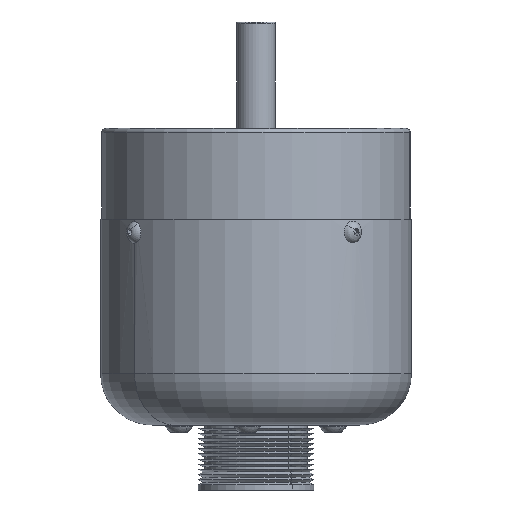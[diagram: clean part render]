
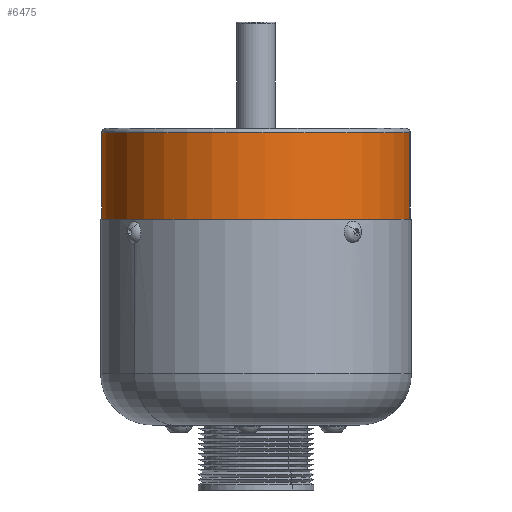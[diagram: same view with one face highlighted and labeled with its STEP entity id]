
A CAD part, front view. The second image highlights one B-rep face of the part: STEP entity #6475.
In plain terms, the highlighted cylindrical face has radius 38.1 mm (diameter 76.2 mm), a partial arc.
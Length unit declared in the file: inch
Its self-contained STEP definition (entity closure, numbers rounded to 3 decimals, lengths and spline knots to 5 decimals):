
#12 = DIRECTION ( 'NONE',  ( 0., 0., 1. ) ) ;
#226 = CIRCLE ( 'NONE', #13781, 1.5 ) ;
#287 = ORIENTED_EDGE ( 'NONE', *, *, #9919, .F. ) ;
#1150 = CYLINDRICAL_SURFACE ( 'NONE', #11495, 1.5 ) ;
#1647 = DIRECTION ( 'NONE',  ( 0.993, -0.115, 0. ) ) ;
#1649 = CARTESIAN_POINT ( 'NONE',  ( 0.74608, 0.28622, -0.38678 ) ) ;
#2266 = EDGE_CURVE ( 'NONE', #6272, #11866, #226, .T. ) ;
#3319 = ORIENTED_EDGE ( 'NONE', *, *, #5310, .T. ) ;
#3476 = DIRECTION ( 'NONE',  ( 0.993, -0.115, 0. ) ) ;
#4111 = CARTESIAN_POINT ( 'NONE',  ( 0.74608, 0.28622, -0.77478 ) ) ;
#4154 = CARTESIAN_POINT ( 'NONE',  ( -2.23389, 0.63233, -0.77478 ) ) ;
#4713 = DIRECTION ( 'NONE',  ( -0.993, 0.115, 0. ) ) ;
#5310 = EDGE_CURVE ( 'NONE', #10317, #6272, #6427, .T. ) ;
#6132 = CARTESIAN_POINT ( 'NONE',  ( -2.23389, 0.63233, -0.38678 ) ) ;
#6272 = VERTEX_POINT ( 'NONE', #7293 ) ;
#6427 = LINE ( 'NONE', #4111, #12635 ) ;
#6475 = ADVANCED_FACE ( 'NONE', ( #14116 ), #1150, .T. ) ;
#6665 = VECTOR ( 'NONE', #7641, 39.37008 ) ;
#7095 = AXIS2_PLACEMENT_3D ( 'NONE', #8203, #13896, #3476 ) ;
#7293 = CARTESIAN_POINT ( 'NONE',  ( 0.74608, 0.28622, 0.45322 ) ) ;
#7641 = DIRECTION ( 'NONE',  ( 0., 0., 1. ) ) ;
#8203 = CARTESIAN_POINT ( 'NONE',  ( -0.7439, 0.45927, -0.38678 ) ) ;
#8743 = LINE ( 'NONE', #4154, #6665 ) ;
#9919 = EDGE_CURVE ( 'NONE', #11838, #11866, #8743, .T. ) ;
#10317 = VERTEX_POINT ( 'NONE', #1649 ) ;
#10337 = ORIENTED_EDGE ( 'NONE', *, *, #2266, .T. ) ;
#10590 = CARTESIAN_POINT ( 'NONE',  ( -0.7439, 0.45927, -0.77478 ) ) ;
#10758 = EDGE_LOOP ( 'NONE', ( #14971, #3319, #10337, #287 ) ) ;
#11158 = DIRECTION ( 'NONE',  ( 0., 0., 1. ) ) ;
#11495 = AXIS2_PLACEMENT_3D ( 'NONE', #10590, #12, #4713 ) ;
#11838 = VERTEX_POINT ( 'NONE', #6132 ) ;
#11866 = VERTEX_POINT ( 'NONE', #13705 ) ;
#12231 = DIRECTION ( 'NONE',  ( 0., 0., -1. ) ) ;
#12494 = EDGE_CURVE ( 'NONE', #10317, #11838, #14471, .T. ) ;
#12635 = VECTOR ( 'NONE', #11158, 39.37008 ) ;
#13381 = CARTESIAN_POINT ( 'NONE',  ( -0.7439, 0.45927, 0.45322 ) ) ;
#13705 = CARTESIAN_POINT ( 'NONE',  ( -2.23389, 0.63233, 0.45322 ) ) ;
#13781 = AXIS2_PLACEMENT_3D ( 'NONE', #13381, #12231, #1647 ) ;
#13896 = DIRECTION ( 'NONE',  ( 0., 0., -1. ) ) ;
#14116 = FACE_OUTER_BOUND ( 'NONE', #10758, .T. ) ;
#14471 = CIRCLE ( 'NONE', #7095, 1.5 ) ;
#14971 = ORIENTED_EDGE ( 'NONE', *, *, #12494, .F. ) ;
